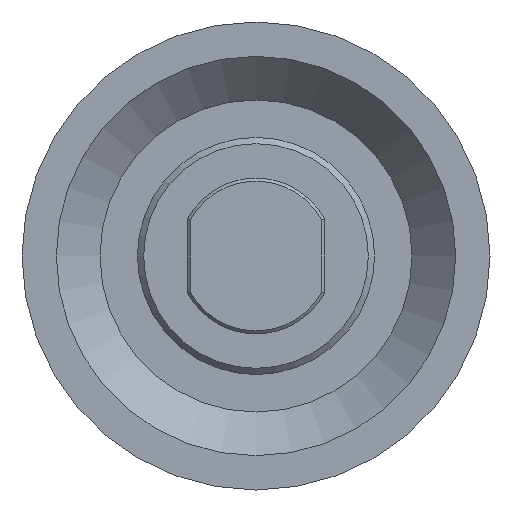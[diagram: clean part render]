
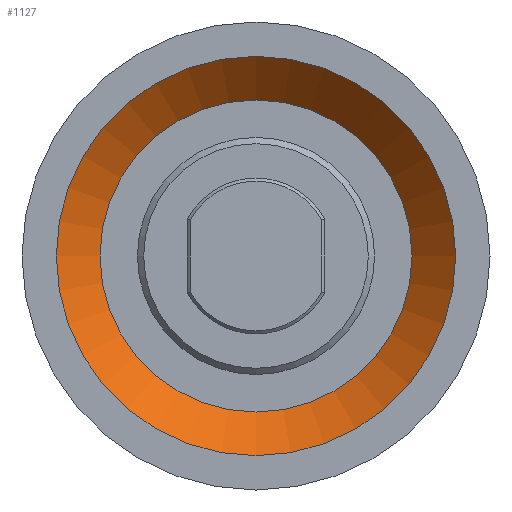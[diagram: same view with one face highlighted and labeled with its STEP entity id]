
A CAD part, left-side view. The second image highlights one B-rep face of the part: STEP entity #1127.
In plain terms, the highlighted conical face has half-angle 45 degrees and reference radius 28.5 mm.
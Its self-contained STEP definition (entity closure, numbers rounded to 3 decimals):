
#153=LINE('',#2046,#202);
#202=VECTOR('',#1660,28.5);
#246=CONICAL_SURFACE('',#1414,28.5,0.785);
#277=FACE_OUTER_BOUND('',#349,.T.);
#349=EDGE_LOOP('',(#868,#869,#870,#871,#872,#873));
#454=CIRCLE('',#1412,25.);
#455=CIRCLE('',#1413,25.);
#456=CIRCLE('',#1415,32.);
#457=CIRCLE('',#1416,32.);
#546=VERTEX_POINT('',#2040);
#547=VERTEX_POINT('',#2041);
#548=VERTEX_POINT('',#2045);
#549=VERTEX_POINT('',#2047);
#668=EDGE_CURVE('',#546,#547,#454,.T.);
#669=EDGE_CURVE('',#547,#546,#455,.T.);
#670=EDGE_CURVE('',#547,#548,#153,.T.);
#671=EDGE_CURVE('',#549,#548,#456,.T.);
#672=EDGE_CURVE('',#548,#549,#457,.T.);
#868=ORIENTED_EDGE('',*,*,#668,.T.);
#869=ORIENTED_EDGE('',*,*,#670,.T.);
#870=ORIENTED_EDGE('',*,*,#671,.F.);
#871=ORIENTED_EDGE('',*,*,#672,.F.);
#872=ORIENTED_EDGE('',*,*,#670,.F.);
#873=ORIENTED_EDGE('',*,*,#669,.T.);
#1127=ADVANCED_FACE('',(#277),#246,.F.);
#1412=AXIS2_PLACEMENT_3D('',#2042,#1654,#1655);
#1413=AXIS2_PLACEMENT_3D('',#2043,#1656,#1657);
#1414=AXIS2_PLACEMENT_3D('',#2044,#1658,#1659);
#1415=AXIS2_PLACEMENT_3D('',#2048,#1661,#1662);
#1416=AXIS2_PLACEMENT_3D('',#2049,#1663,#1664);
#1654=DIRECTION('center_axis',(1.,0.,0.));
#1655=DIRECTION('ref_axis',(0.,0.,-1.));
#1656=DIRECTION('center_axis',(1.,0.,0.));
#1657=DIRECTION('ref_axis',(0.,0.,-1.));
#1658=DIRECTION('center_axis',(-1.,0.,0.));
#1659=DIRECTION('ref_axis',(0.,1.,0.));
#1660=DIRECTION('',(-0.707,-0.707,0.));
#1661=DIRECTION('center_axis',(1.,0.,0.));
#1662=DIRECTION('ref_axis',(0.,0.,-1.));
#1663=DIRECTION('center_axis',(1.,0.,0.));
#1664=DIRECTION('ref_axis',(0.,0.,-1.));
#2040=CARTESIAN_POINT('',(-2.,25.,0.));
#2041=CARTESIAN_POINT('',(-2.,-25.,0.));
#2042=CARTESIAN_POINT('Origin',(-2.,0.,
0.));
#2043=CARTESIAN_POINT('Origin',(-2.,0.,
0.));
#2044=CARTESIAN_POINT('Origin',(-5.5,0.,
0.));
#2045=CARTESIAN_POINT('',(-9.,-32.,0.));
#2046=CARTESIAN_POINT('',(-5.5,-28.5,0.));
#2047=CARTESIAN_POINT('',(-9.,32.,0.));
#2048=CARTESIAN_POINT('Origin',(-9.,0.,
0.));
#2049=CARTESIAN_POINT('Origin',(-9.,0.,
0.));
